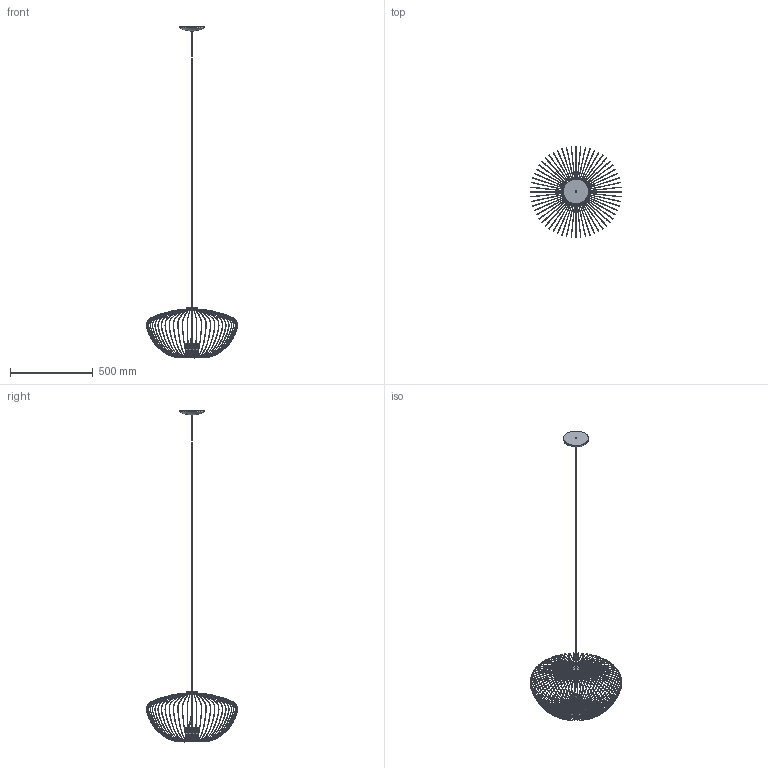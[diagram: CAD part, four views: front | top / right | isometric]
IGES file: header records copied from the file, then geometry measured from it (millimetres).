
Start section: SolidWorks IGES file using analytic representation for surfaces
Global section: file name: Z:\PRODUKT\Modele_3D_WWW\PUMPKIN\Pumpkin M\PUMPKIN-M-11244-11245\MPumpkin M PM.IGS; native system: SolidWorks 2023; preprocessor: SolidWorks 2023; author: anna.bielnik; date: 240207.113212; units: millimetre
Bounding box: 551.5 x 551.5 x 2000.07 mm (x, y, z)
Surface area: 390316.5 mm2 (no closed solid volume)
Topology: 0 solids, 0 shells, 2803 faces, 26218 edges, 26218 vertices
Faces by surface type: bspline 2069, revolution 734
